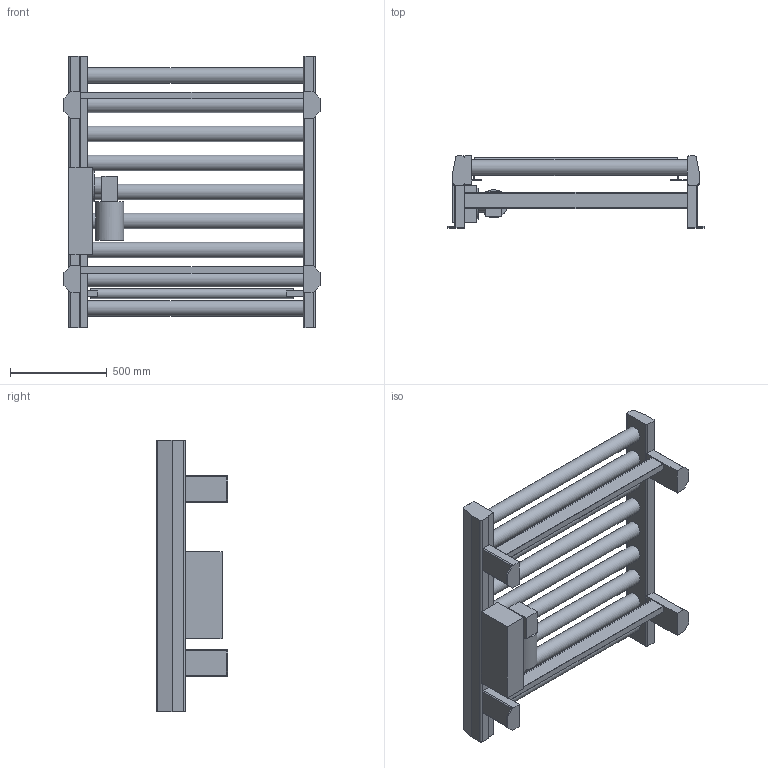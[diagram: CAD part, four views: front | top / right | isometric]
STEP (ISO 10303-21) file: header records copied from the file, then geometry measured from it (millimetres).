
FILE_DESCRIPTION((''),'2;1');
FILE_NAME('C:\Vault_Working_Folder\Designs\Inventor\Lättviktsmodeller\Maxi\IRKS 80-150-1150-1400.stp','2012-11-13T08:47:46',('martin.samuelsson'),(''),'Autodesk Inventor 2013','Autodesk Inventor 2013','');
FILE_SCHEMA(('AUTOMOTIVE_DESIGN { 1 0 10303 214 1 1 1 1 }'));
Length unit declared in the file: millimetre
Products named in the file (1): IRKS 80-150-1150-1400
Bounding box: 1322 x 370 x 1400 mm (x, y, z)
Volume: 106138770.7 mm3; surface area: 5500475.8 mm2
Topology: 5 solids, 5 shells, 152 faces, 385 edges, 252 vertices
Faces by surface type: plane 117, cylinder 35
Full cylindrical faces by diameter (mm): 50 x1, 80 x9, 90 x1, 145 x1, 160 x1
Entity records: 4612 total; most frequent: CARTESIAN_POINT 775, DIRECTION 756, ORIENTED_EDGE 742, EDGE_CURVE 371, VECTOR 292, LINE 292, VERTEX_POINT 251, AXIS2_PLACEMENT_3D 232
